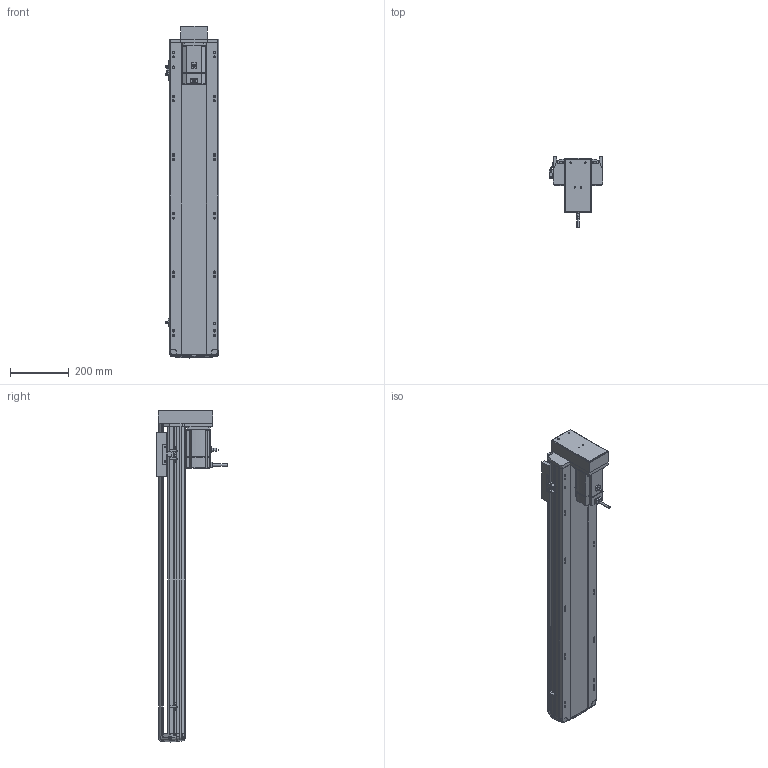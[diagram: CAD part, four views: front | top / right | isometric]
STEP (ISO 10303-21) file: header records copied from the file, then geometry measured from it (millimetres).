
FILE_DESCRIPTION (( 'STEP AP214' ), '1' );
FILE_NAME ('RTH17-XX-850-M-M75-C4.STEP', '2025-10-24T10:25:55', ( '' ), ( '' ), 'SwSTEP 2.0', 'SolidWorks 2018', '' );
FILE_SCHEMA (( 'AUTOMOTIVE_DESIGN' ));
Length unit declared in the file: millimetre
Products named in the file (10): N_RTH17-M-007上盖^RTH17-XX-XX-M-M75-C4（方程式）; N_RTH-BL-012 感应片(外置)^RTH17-XX-XX-M-M75-C4（方程式）; N_RTH17-GY-001P^RTH17-XX-XX-M-M75-C4（方程式）; N_RTH17-E-004丝杆螺母连接座^RTH17-XX-XX-M-M75-C4（方程式）; N_RTH17-M-018盖子^RTH17-XX-XX-M-M75-C4（方程式）; RTH17-XX-850-M-M75-C4; N_OMRON EE-SX672 換覜ん^RTH17-XX-XX-M-M75-C4ㄗ源最宒ㄘ; N_RTH17-M-008-P75电机安装板下折750W^RTH17-XX-XX-M-M75-C4（方程式）; N_M75^RTH17-XX-XX-M-M75-C4（方程式）; N_RTH17-M-011底座^RTH17-XX-XX-M-M75-C4（方程式）
Assembly tree (11 placements, depth 2):
  RTH17-XX-850-M-M75-C4
    N_RTH17-M-011底座^RTH17-XX-XX-M-M75-C4（方程式）
    N_RTH17-M-007上盖^RTH17-XX-XX-M-M75-C4（方程式）
    N_M75^RTH17-XX-XX-M-M75-C4（方程式）
    N_OMRON EE-SX672 換覜ん^RTH17-XX-XX-M-M75-C4ㄗ源最宒ㄘ  x3
    N_RTH-BL-012 感应片(外置)^RTH17-XX-XX-M-M75-C4（方程式）
    N_RTH17-M-008-P75电机安装板下折750W^RTH17-XX-XX-M-M75-C4（方程式）
    N_RTH17-M-018盖子^RTH17-XX-XX-M-M75-C4（方程式）
    N_RTH17-E-004丝杆螺母连接座^RTH17-XX-XX-M-M75-C4（方程式）
    N_RTH17-GY-001P^RTH17-XX-XX-M-M75-C4（方程式）
Bounding box: 183.5 x 240.7 x 1133.19 mm (x, y, z)
Volume: 9237964.9 mm3; surface area: 1280837.2 mm2
Topology: 10 solids, 12 shells, 1757 faces, 4850 edges, 3140 vertices
Faces by surface type: plane 830, cylinder 513, bspline 377, cone 28, torus 9
Entity records: 51379 total; most frequent: CARTESIAN_POINT 20520, ORIENTED_EDGE 6724, DIRECTION 5584, EDGE_CURVE 3366, VERTEX_POINT 2176, AXIS2_PLACEMENT_3D 1879, VECTOR 1826, LINE 1826
